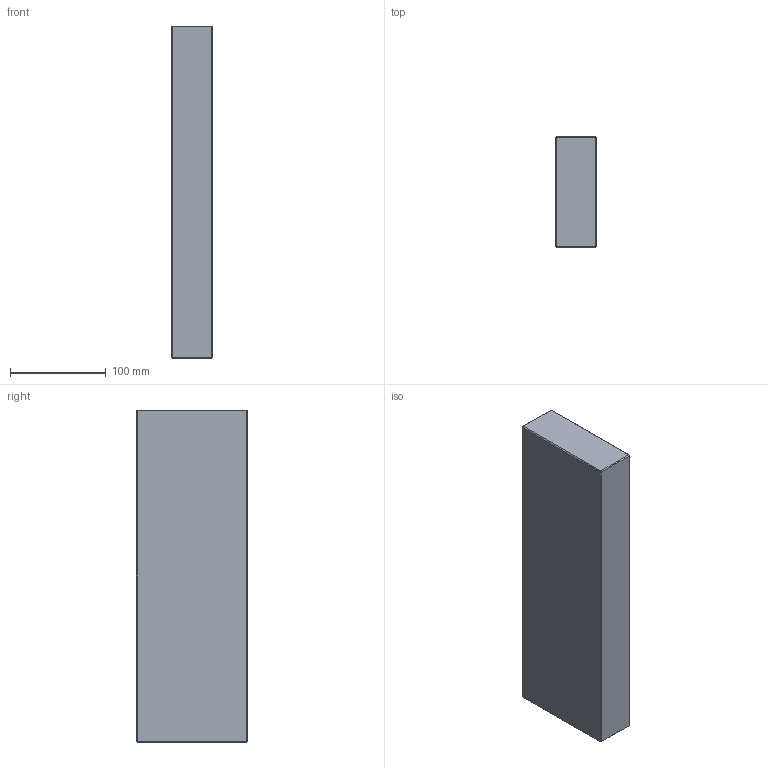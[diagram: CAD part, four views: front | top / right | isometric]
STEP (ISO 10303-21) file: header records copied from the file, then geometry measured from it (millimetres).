
FILE_DESCRIPTION (( 'STEP AP214' ), '1' );
FILE_NAME ('ESP-P-346X346x116.STEP', '2020-04-08T10:56:38', ( 'August' ), ( '' ), 'SwSTEP 2.0', 'SolidWorks 2018', '' );
FILE_SCHEMA (( 'AUTOMOTIVE_DESIGN' ));
Length unit declared in the file: millimetre
Products named in the file (1): ESP-P-346X346x116
Bounding box: 43 x 116 x 346 mm (x, y, z)
Volume: 1724843.3 mm3; surface area: 118817.7 mm2
Topology: 1 solids, 1 shells, 26 faces, 48 edges, 24 vertices
Faces by surface type: plane 26
Entity records: 634 total; most frequent: DIRECTION 102, CARTESIAN_POINT 99, ORIENTED_EDGE 96, EDGE_CURVE 48, VECTOR 48, LINE 48, AXIS2_PLACEMENT_3D 27, ADVANCED_FACE 26
